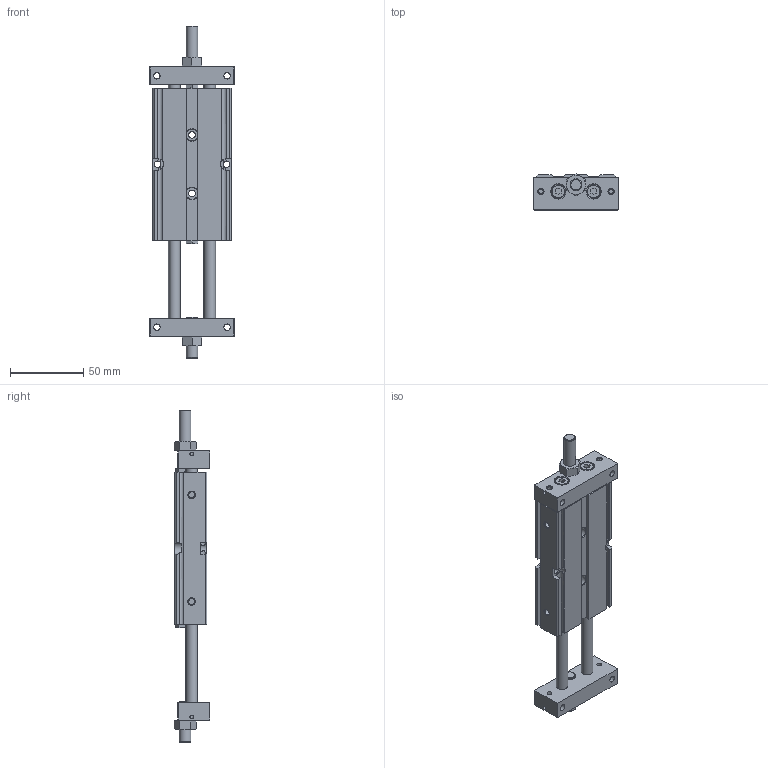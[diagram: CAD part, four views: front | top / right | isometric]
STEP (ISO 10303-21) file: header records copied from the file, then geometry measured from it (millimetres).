
FILE_DESCRIPTION((''),'2;1');
FILE_NAME('I:\3D電子目錄\氣缸\STU\STU\STU16\STU16x50.stp','2007-10-01T08:48:34',('Administrator'),(''),'Autodesk Inventor 11','Autodesk Inventor 11','');
FILE_SCHEMA(('AUTOMOTIVE_DESIGN { 1 0 10303 214 1 1 1 1 }'));
Length unit declared in the file: millimetre
Products named in the file (1): STU16
Bounding box: 58 x 24.51 x 227 mm (x, y, z)
Volume: 142184.8 mm3; surface area: 41588 mm2
Topology: 1 solids, 1 shells, 315 faces, 775 edges, 493 vertices
Faces by surface type: plane 161, cone 71, bspline 48, cylinder 35
Full cylindrical faces by diameter (mm): 2.459 x2, 8 x7, 8.5 x4, 9.5 x4, 18 x2, 19.2 x2
Entity records: 10033 total; most frequent: CARTESIAN_POINT 3278, ORIENTED_EDGE 1350, DIRECTION 1290, EDGE_CURVE 675, VERTEX_POINT 475, EDGE_LOOP 474, AXIS2_PLACEMENT_3D 473, VECTOR 344
